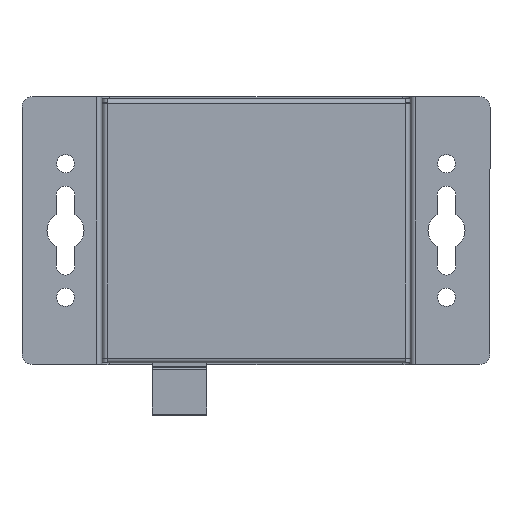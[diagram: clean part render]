
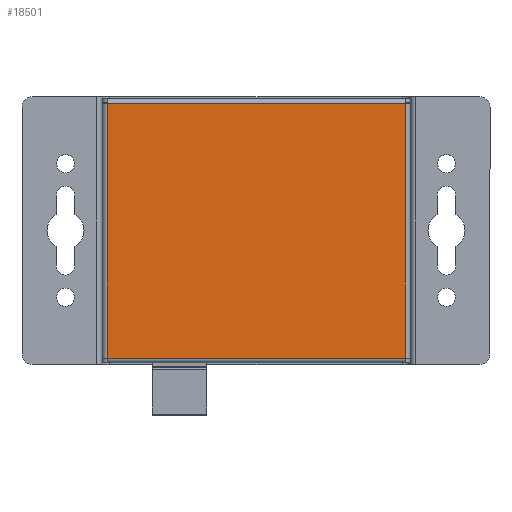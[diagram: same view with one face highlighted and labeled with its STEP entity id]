
A CAD part, front view. The second image highlights one B-rep face of the part: STEP entity #18501.
In plain terms, the highlighted planar face has unit normal (0, -1, 0).
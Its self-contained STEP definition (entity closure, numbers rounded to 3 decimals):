
#802=PLANE('',#19848);
#1888=FACE_OUTER_BOUND('',#2931,.T.);
#2931=EDGE_LOOP('',(#14813,#14814,#14815,#14816));
#4297=LINE('',#29966,#6340);
#4307=LINE('',#30009,#6350);
#4308=LINE('',#30011,#6351);
#4309=LINE('',#30012,#6352);
#6340=VECTOR('',#22830,10.);
#6350=VECTOR('',#22868,10.);
#6351=VECTOR('',#22869,10.);
#6352=VECTOR('',#22870,10.);
#8887=VERTEX_POINT('',#29959);
#8890=VERTEX_POINT('',#29964);
#8909=VERTEX_POINT('',#30008);
#8910=VERTEX_POINT('',#30010);
#11020=EDGE_CURVE('',#8890,#8887,#4297,.T.);
#11041=EDGE_CURVE('',#8890,#8909,#4307,.T.);
#11042=EDGE_CURVE('',#8909,#8910,#4308,.T.);
#11043=EDGE_CURVE('',#8910,#8887,#4309,.T.);
#14813=ORIENTED_EDGE('',*,*,#11020,.F.);
#14814=ORIENTED_EDGE('',*,*,#11041,.T.);
#14815=ORIENTED_EDGE('',*,*,#11042,.T.);
#14816=ORIENTED_EDGE('',*,*,#11043,.T.);
#18501=ADVANCED_FACE('',(#1888),#802,.F.);
#19848=AXIS2_PLACEMENT_3D('',#30007,#22866,#22867);
#22830=DIRECTION('',(0.,0.,-1.));
#22866=DIRECTION('center_axis',(0.,1.,0.));
#22867=DIRECTION('ref_axis',(0.,0.,1.));
#22868=DIRECTION('',(-1.,0.,0.));
#22869=DIRECTION('',(0.,0.,-1.));
#22870=DIRECTION('',(1.,0.,0.));
#29959=CARTESIAN_POINT('',(24.,0.,-28.1));
#29964=CARTESIAN_POINT('',(24.,0.,28.1));
#29966=CARTESIAN_POINT('',(24.,0.,-19.5));
#30007=CARTESIAN_POINT('Origin',(0.,0.,0.));
#30008=CARTESIAN_POINT('',(-24.,0.,28.1));
#30009=CARTESIAN_POINT('',(12.,0.,28.1));
#30010=CARTESIAN_POINT('',(-24.,0.,-28.1));
#30011=CARTESIAN_POINT('',(-24.,0.,29.));
#30012=CARTESIAN_POINT('',(-12.,0.,-28.1));
